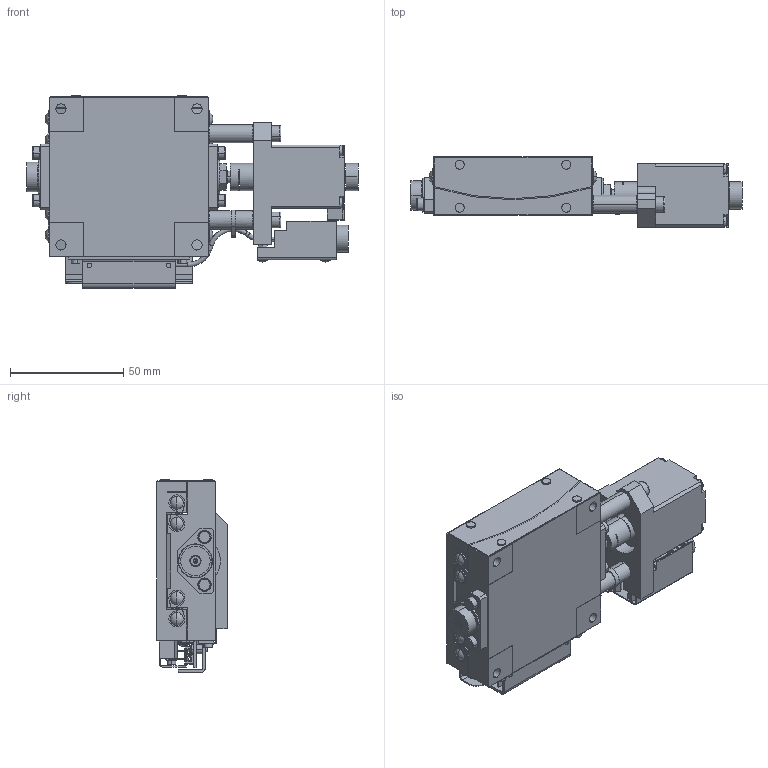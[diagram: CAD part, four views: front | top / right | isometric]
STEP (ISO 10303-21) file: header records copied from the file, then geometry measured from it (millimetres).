
FILE_DESCRIPTION (( 'STEP AP214' ), '1' );
FILE_NAME ('KGB07096M-LC.STEP', '2024-01-09T02:24:50', ( '' ), ( '' ), 'SwSTEP 2.0', 'SolidWorks 2017', '' );
FILE_SCHEMA (( 'AUTOMOTIVE_DESIGN' ));
Length unit declared in the file: millimetre
Products named in the file (5): KGB-BASE-07096-L; KGB07096M-LC; KGB-TOP-07096-L; KGB-70-M-12-L; KGB-70-C-L
Assembly tree (4 placements, depth 2):
  KGB07096M-LC
    KGB-TOP-07096-L
    KGB-BASE-07096-L
    KGB-70-C-L
    KGB-70-M-12-L
Bounding box: 146.4 x 31 x 85.1 mm (x, y, z)
Volume: 164175 mm3; surface area: 63954.8 mm2
Topology: 7 solids, 34 shells, 1343 faces, 3340 edges, 2163 vertices
Faces by surface type: plane 706, cylinder 442, cone 111, torus 44, sphere 22, bspline 18
Entity records: 41340 total; most frequent: CARTESIAN_POINT 7936, DIRECTION 7085, ORIENTED_EDGE 6620, EDGE_CURVE 3310, AXIS2_PLACEMENT_3D 2504, VERTEX_POINT 2163, LINE 2077, VECTOR 2077
